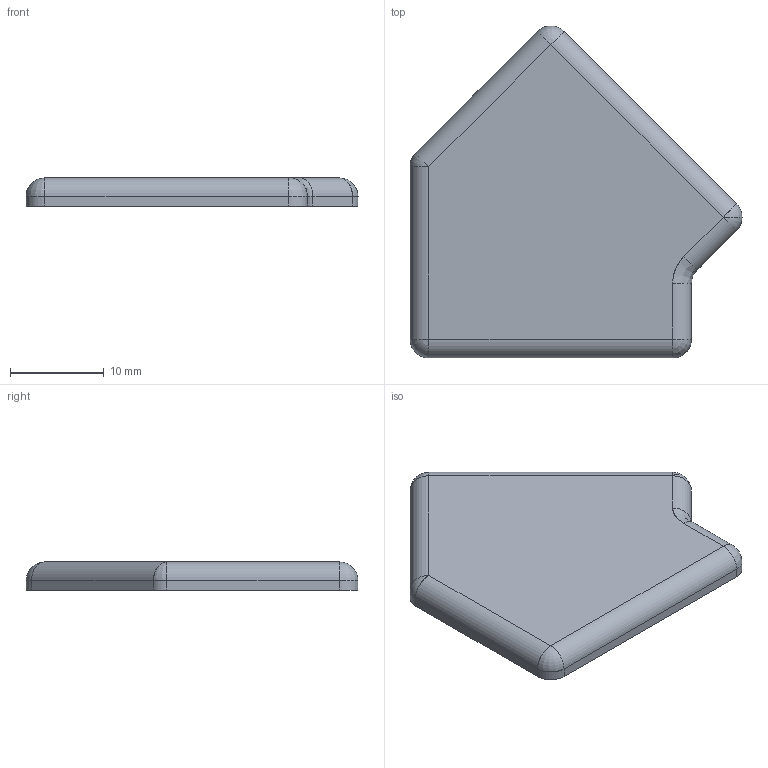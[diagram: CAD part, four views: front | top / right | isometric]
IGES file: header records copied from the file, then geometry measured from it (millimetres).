
Start section: SolidWorks IGES file using analytic representation for surfaces
Global section: file name: C:\Documents and Settings\Administrator\デスクトップ\指定保存後3回目\SolidWorks\SF\SF30\Parts\SFA-J6B.IGS; native system: SolidWorks 2006 by SolidWorks Corporation; preprocessor: SolidWorks 2006 by SolidWorks Corporation; author: Administrator; date: 061213.105552; units: millimetre
Bounding box: 35.38 x 35.38 x 3 mm (x, y, z)
Surface area: 2040.6 mm2 (no closed solid volume)
Topology: 0 solids, 0 shells, 27 faces, 214 edges, 265 vertices
Faces by surface type: revolution 18, bspline 9
